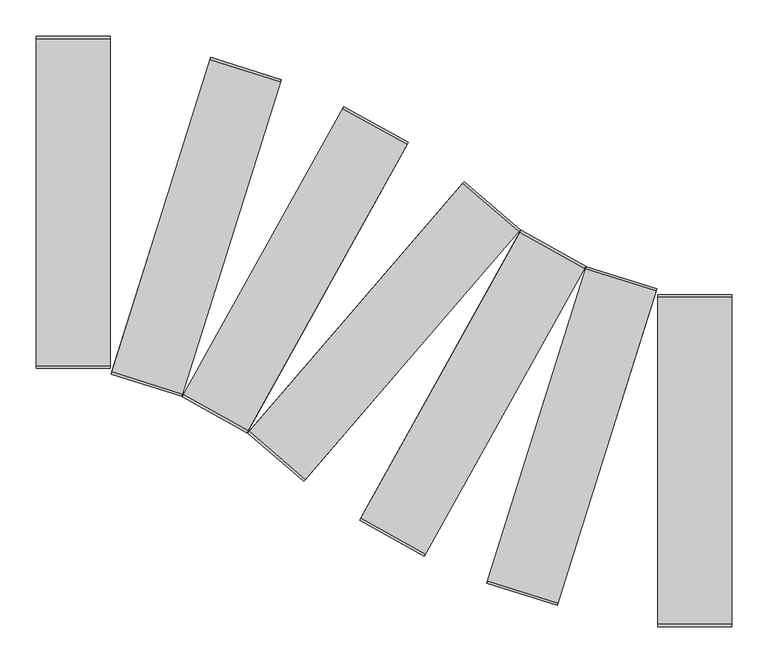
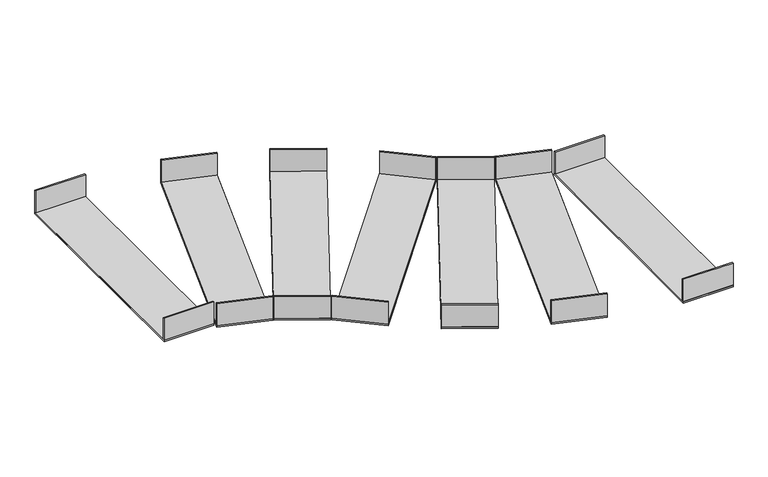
"""IFC4 building model written with IfcOpenShell, lengths in millimetres: cable carrier fitting geometry, Offset-Horizontal-Cablofil-Wire_Mesh_Cable_Tray-Cablobend : Cablobend."""

from ifc_helpers import new_model, si_unit, frame, origin, place, context, project, spatial, polyline, outline, extrude, source, transform, mapped, element, save


def cable_carrier_fitting_95b36328(model_context):
    return source(origin(), model_context, "Body", "SweptSolid", [
        extrude(outline(polyline([(66.300144, 131.8272941), (155.0721747, 82.4098218), (-67.3064506, -317.0643163), (-156.0784813, -267.646844), (66.300144, 131.8272941)])), frame((0.0, 0.0, -25.4), z_axis=(0.0, 0.0, 1.0), x_axis=(1.0, 0.0, 0.0)), (0.0, 0.0, 1.0), 3.175),
        extrude(outline(polyline([(50.8, 0.0), (0.0, 0.0), (0.0, 457.2), (50.8, 457.2), (50.8, 454.0250001), (3.175, 454.0250001), (3.175, 3.175), (50.8, 3.175), (50.8, 0.0)])), frame((-67.3064506, -317.0643163, -25.4), z_axis=(-0.873740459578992, 0.4863924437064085, 0.0), x_axis=(0.0, 0.0, 1.0)), (0.0, 0.0, 1.0), 101.6),
        extrude(outline(polyline([(498.6804907, -127.0), (600.2804907, -127.0), (600.2804907, -584.2), (498.6804907, -584.2), (498.6804907, -127.0)])), frame((0.0, 0.0, -25.4), z_axis=(0.0, 0.0, 1.0), x_axis=(1.0, 0.0, 0.0)), (0.0, 0.0, 1.0), 3.175),
        extrude(outline(polyline([(-584.2, 25.4), (-581.025, 25.4), (-581.025, -22.225), (-130.175, -22.225), (-130.175, 25.4), (-127.0, 25.4), (-127.0, -25.4), (-584.2, -25.4), (-584.2, 25.4)])), frame((498.6804907, 0.0, 0.0), z_axis=(1.0, 0.0, 0.0), x_axis=(0.0, 1.0, 0.0)), (0.0, 0.0, 1.0), 101.6),
        extrude(outline(polyline([(400.2956277, -88.4850978), (497.2133808, -118.97295), (360.0180459, -555.102839), (263.1002928, -524.6149868), (400.2956277, -88.4850978)])), frame((0.0, 0.0, -25.4), z_axis=(0.0, 0.0, 1.0), x_axis=(1.0, 0.0, 0.0)), (0.0, 0.0, 1.0), 3.175),
        extrude(outline(polyline([(50.8, 0.0), (0.0, 0.0), (0.0, 457.2), (50.8, 457.2), (50.8, 454.025), (3.175, 454.025), (3.175, 3.1749999), (50.8, 3.1749999), (50.8, 0.0)])), frame((360.0180459, -555.102839, -25.4), z_axis=(-0.9539148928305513, 0.3000772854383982, 0.0), x_axis=(0.0, 0.0, 1.0)), (0.0, 0.0, 1.0), 101.6),
        extrude(outline(polyline([(310.287432, -38.5356837), (399.0594627, -87.953156), (176.6808374, -487.4272941), (87.9088067, -438.0098218), (310.287432, -38.5356837)])), frame((0.0, 0.0, -25.4), z_axis=(0.0, 0.0, 1.0), x_axis=(1.0, 0.0, 0.0)), (0.0, 0.0, 1.0), 3.175),
        extrude(outline(polyline([(50.8, 0.0), (0.0, 0.0), (0.0, 457.2), (50.8, 457.2), (50.8, 454.025), (3.175, 454.025), (3.175, 3.1749999), (50.8, 3.1749999), (50.8, 0.0)])), frame((176.6808374, -487.4272941, -25.4), z_axis=(-0.8737404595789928, 0.48639244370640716, 0.0), x_axis=(0.0, 0.0, 1.0)), (0.0, 0.0, 1.0), 101.6),
        extrude(outline(polyline([(232.2099214, 28.5487525), (309.1840349, -37.7652419), (10.7710601, -384.1487525), (-66.2030534, -317.8347581), (232.2099214, 28.5487525)])), frame((0.0, 0.0, -25.4), z_axis=(0.0, 0.0, 1.0), x_axis=(1.0, 0.0, 0.0)), (0.0, 0.0, 1.0), 3.175),
        extrude(outline(polyline([(50.8, 0.0), (0.0, 0.0), (0.0, 457.1999999), (50.8, 457.1999999), (50.8, 454.0249999), (3.175, 454.0249999), (3.175, 3.1749999), (50.8, 3.1749999), (50.8, 0.0)])), frame((10.7710601, -384.1487525, -25.4), z_axis=(-0.7576192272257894, 0.6526967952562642, 0.0), x_axis=(0.0, 0.0, 1.0)), (0.0, 0.0, 1.0), 101.6),
        extrude(outline(polyline([(-117.0370644, 199.502839), (-20.1193113, 169.0149868), (-157.3146462, -267.1149022), (-254.2323993, -236.62705), (-117.0370644, 199.502839)])), frame((0.0, 0.0, -25.4), z_axis=(0.0, 0.0, 1.0), x_axis=(1.0, 0.0, 0.0)), (0.0, 0.0, 1.0), 3.175),
        extrude(outline(polyline([(50.8, 0.0), (0.0, 0.0), (0.0, 457.2), (50.8, 457.2), (50.8, 454.0250001), (3.175, 454.0250001), (3.175, 3.175), (50.8, 3.175), (50.8, 0.0)])), frame((-157.3146462, -267.1149022, -25.4), z_axis=(-0.9539148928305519, 0.3000772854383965, 0.0), x_axis=(0.0, 0.0, 1.0)), (0.0, 0.0, 1.0), 101.6),
        extrude(outline(polyline([(-357.2995093, 228.6), (-255.6995093, 228.6), (-255.6995093, -228.6), (-357.2995093, -228.6), (-357.2995093, 228.6)])), frame((0.0, 0.0, -25.4), z_axis=(0.0, 0.0, 1.0), x_axis=(1.0, 0.0, 0.0)), (0.0, 0.0, 1.0), 3.175),
        extrude(outline(polyline([(-228.6, 25.4), (-225.425, 25.4), (-225.425, -22.225), (225.425, -22.225), (225.425, 25.4), (228.6, 25.4), (228.6, -25.4), (-228.6, -25.4), (-228.6, 25.4)])), frame((-357.2995093, 0.0, 0.0), z_axis=(1.0, 0.0, 0.0), x_axis=(0.0, 1.0, 0.0)), (0.0, 0.0, 1.0), 101.6),
    ])


if __name__ == "__main__":
    model = new_model("IFC4")
    model_context = context("Model", 3, world=origin())
    ifc_project = project(units=[si_unit("LENGTHUNIT", "METRE", prefix="MILLI")], contexts=[model_context])
    site = spatial("IfcSite", under=ifc_project)
    building = spatial("IfcBuilding", under=site)
    placement = place(None, origin())
    cable_carrier_fitting_shape = cable_carrier_fitting_95b36328(model_context)
    element("IfcCableCarrierFitting", 1, ObjectType="Offset-Horizontal-Cablofil-Wire_Mesh_Cable_Tray-Cablobend : Cablobend", at=placement, inside=building, context=model_context, shape_type="MappedRepresentation", body=[
        mapped(cable_carrier_fitting_shape, transform((0.0, 0.0, 0.0), x_axis=(1.0, 0.0, 0.0), y_axis=(0.0, 1.0, 0.0), z_axis=(0.0, 0.0, 1.0))),
    ])
    save(model, "model.ifc")
